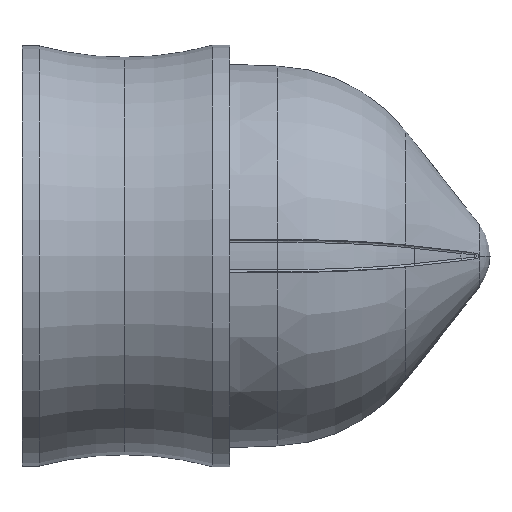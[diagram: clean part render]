
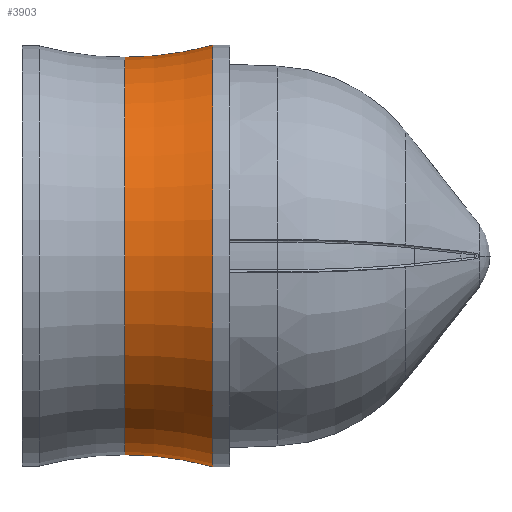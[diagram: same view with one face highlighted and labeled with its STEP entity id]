
A CAD part, left-side view. The second image highlights one B-rep face of the part: STEP entity #3903.
In plain terms, the highlighted toroidal (fillet/blend) face has major radius 19.714 mm and minor radius 12.294 mm.
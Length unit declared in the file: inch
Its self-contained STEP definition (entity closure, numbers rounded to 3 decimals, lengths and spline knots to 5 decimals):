
#533 = EDGE_CURVE ( 'NONE', #8969, #4717, #8884, .T. ) ;
#791 = DIRECTION ( 'NONE',  ( 0., 1., 0. ) ) ;
#850 = FACE_OUTER_BOUND ( 'NONE', #6953, .T. ) ;
#882 = EDGE_CURVE ( 'NONE', #6903, #6461, #5543, .T. ) ;
#2867 = EDGE_CURVE ( 'NONE', #6903, #8969, #3453, .T. ) ;
#3453 = CIRCLE ( 'NONE', #9615, 0.29215 ) ;
#3676 = CARTESIAN_POINT ( 'NONE',  ( 0., 0.18933, -0.29215 ) ) ;
#3764 = CARTESIAN_POINT ( 'NONE',  ( 0., 0.18933, 0. ) ) ;
#3903 = ADVANCED_FACE ( 'NONE', ( #850 ), #4705, .F. ) ;
#4421 = AXIS2_PLACEMENT_3D ( 'NONE', #7324, #791, #8208 ) ;
#4705 = TOROIDAL_SURFACE ( 'NONE', #6284, 0.77615, 0.484 ) ;
#4717 = VERTEX_POINT ( 'NONE', #5441 ) ;
#4767 = ORIENTED_EDGE ( 'NONE', *, *, #2867, .F. ) ;
#5441 = CARTESIAN_POINT ( 'NONE',  ( 0., 0.06, 0.30975 ) ) ;
#5543 = CIRCLE ( 'NONE', #9597, 0.484 ) ;
#5895 = ORIENTED_EDGE ( 'NONE', *, *, #882, .T. ) ;
#6235 = CARTESIAN_POINT ( 'NONE',  ( 0., 0.18933, 0.29215 ) ) ;
#6284 = AXIS2_PLACEMENT_3D ( 'NONE', #6766, #8430, #10920 ) ;
#6461 = VERTEX_POINT ( 'NONE', #8924 ) ;
#6766 = CARTESIAN_POINT ( 'NONE',  ( 0., 0.18933, 0. ) ) ;
#6767 = DIRECTION ( 'NONE',  ( 0., 0., 1. ) ) ;
#6880 = CARTESIAN_POINT ( 'NONE',  ( 0., 0.18933, 0.77615 ) ) ;
#6903 = VERTEX_POINT ( 'NONE', #3676 ) ;
#6953 = EDGE_LOOP ( 'NONE', ( #4767, #5895, #7950, #9963 ) ) ;
#7104 = DIRECTION ( 'NONE',  ( 0., 1., 0. ) ) ;
#7290 = AXIS2_PLACEMENT_3D ( 'NONE', #6880, #10249, #6767 ) ;
#7324 = CARTESIAN_POINT ( 'NONE',  ( 0., 0.06, 0. ) ) ;
#7854 = DIRECTION ( 'NONE',  ( 0., 0., -1. ) ) ;
#7950 = ORIENTED_EDGE ( 'NONE', *, *, #9212, .T. ) ;
#8208 = DIRECTION ( 'NONE',  ( 0., 0., 1. ) ) ;
#8430 = DIRECTION ( 'NONE',  ( 0., 1., 0. ) ) ;
#8745 = CARTESIAN_POINT ( 'NONE',  ( 0., 0.18933, -0.77615 ) ) ;
#8884 = CIRCLE ( 'NONE', #7290, 0.484 ) ;
#8924 = CARTESIAN_POINT ( 'NONE',  ( 0., 0.06, -0.30975 ) ) ;
#8969 = VERTEX_POINT ( 'NONE', #6235 ) ;
#9212 = EDGE_CURVE ( 'NONE', #6461, #4717, #10054, .T. ) ;
#9516 = DIRECTION ( 'NONE',  ( 1., 0., 0. ) ) ;
#9597 = AXIS2_PLACEMENT_3D ( 'NONE', #8745, #9516, #7854 ) ;
#9615 = AXIS2_PLACEMENT_3D ( 'NONE', #3764, #7104, #10472 ) ;
#9963 = ORIENTED_EDGE ( 'NONE', *, *, #533, .F. ) ;
#10054 = CIRCLE ( 'NONE', #4421, 0.30975 ) ;
#10249 = DIRECTION ( 'NONE',  ( -1., 0., 0. ) ) ;
#10472 = DIRECTION ( 'NONE',  ( 0., 0., 1. ) ) ;
#10920 = DIRECTION ( 'NONE',  ( 0., 0., 1. ) ) ;
